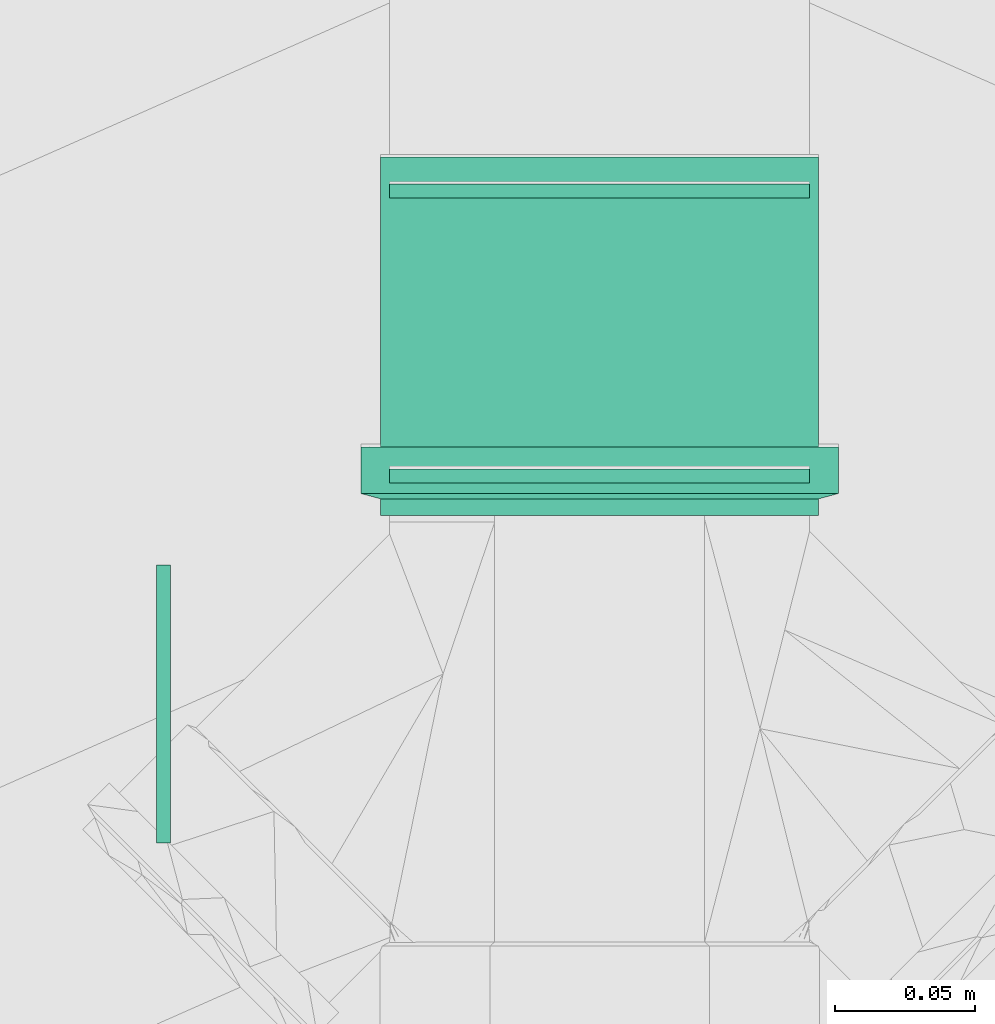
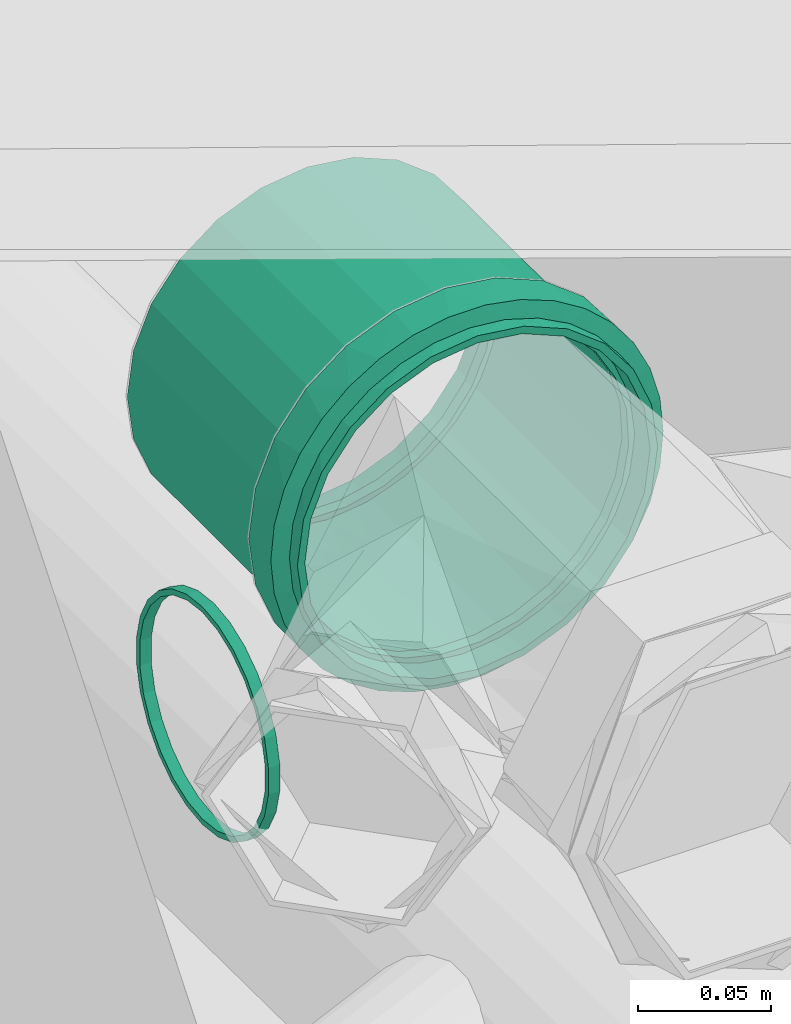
# One storey, part 126 of 166: 4 flow fittings.
"""IFC2X3 building model written with IfcOpenShell, lengths in metres."""

from ifc_helpers import new_model, entity, si_unit, converted_unit, direction, frame, frame_2d, origin, place, context, subcontext, project, spatial, hollow_circle, extrude, faceted_brep, source, transform, mapped, material, type_object, type_shapes, element, save


model = new_model("IFC2X3")

# Units and contexts
model_context = context("Model", 3, precision=1e-05, world=origin(), true_north=direction((6.123233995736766e-17, 1.0)))
body_context = subcontext(model_context, "Body", "Model", "MODEL_VIEW")
ifc_project = project(units=[si_unit("LENGTHUNIT", "METRE"), converted_unit("PLANEANGLEUNIT", "DEGREE", entity("IfcPlaneAngleMeasure", 0.017453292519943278), si_unit("PLANEANGLEUNIT", "RADIAN"), dimensions=[0, 0, 0, 0, 0, 0, 0]), si_unit("AREAUNIT", "SQUARE_METRE")], contexts=[model_context])

# Site, building, storey
site_placement = place(None, origin())
site = spatial("IfcSite", under=ifc_project, at=site_placement, Name="Default", CompositionType="ELEMENT")
building_placement = place(site_placement, origin())
building = spatial("IfcBuilding", under=site, at=building_placement, Name="CASA DE ACOLHIDA PARA IDOSOS", CompositionType="ELEMENT")
storey_placement = place(building_placement, frame((0.0, 0.0, -1.7499999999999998)))
storey = spatial("IfcBuildingStorey", under=building, at=storey_placement, Name="IMPLANTAÇÃO DRENAGEM", CompositionType="ELEMENT", Elevation=-1.7499999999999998)

# Flow fittings
ifc_material_1 = material(Name="PVC Bege Pérola")
pipe_fitting_type_1 = type_object("IfcPipeFittingType", Name="PLUV_Serie Reforcada_Luva Simples:Standard", PredefinedType="NOTDEFINED", material=ifc_material_1)
shared_shape_1 = source(origin(), body_context, "Body", "Brep", [
    faceted_brep([(0.02451000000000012, -0.039124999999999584, -0.06776648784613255), (0.02451000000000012, -0.06028085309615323, -0.06028085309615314), (0.02451000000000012, -0.04262500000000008, -0.07382866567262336), (0.02451000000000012, -0.020252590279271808, -0.0755836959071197), (0.02451000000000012, -0.05533110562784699, -0.055331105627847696), (0.02451000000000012, -0.07382866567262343, -0.04262499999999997), (0.02451000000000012, -0.06776648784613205, -0.03912500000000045), (0.02451000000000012, -0.07558369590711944, -0.02025259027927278), (0.02451000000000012, -0.08234517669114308, -0.022064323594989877), (0.02451000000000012, -0.07825, 0.0), (0.02451000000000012, -0.08525, 0.0), (0.02451000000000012, -0.07558369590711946, 0.020252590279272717), (0.02451000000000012, -0.0823451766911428, 0.022064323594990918), (0.02451000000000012, -0.06776648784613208, 0.039125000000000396), (0.02451000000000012, -0.07382866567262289, 0.04262500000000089), (0.02451000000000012, -0.05533110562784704, 0.055331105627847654), (0.02451000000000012, -0.06028085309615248, 0.0602808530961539), (0.02451000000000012, -0.03912499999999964, 0.06776648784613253), (0.02451000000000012, -0.04262499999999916, 0.07382866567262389), (0.02451000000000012, -0.020252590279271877, 0.07558369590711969), (0.02451000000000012, -0.02206432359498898, 0.08234517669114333), (0.02451000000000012, 0.0, 0.07825), (0.02451000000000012, 0.0, 0.08525), (0.02451000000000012, 0.020252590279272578, 0.0755836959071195), (0.02451000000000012, 0.022064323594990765, 0.08234517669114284), (0.02451000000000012, 0.03912500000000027, 0.06776648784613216), (0.02451000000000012, 0.042625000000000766, 0.07382866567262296), (0.02451000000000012, 0.05533110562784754, 0.055331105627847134), (0.02451000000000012, 0.0602808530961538, 0.06028085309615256), (0.02451000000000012, 0.06776648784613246, 0.03912499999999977), (0.02451000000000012, 0.07382866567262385, 0.042624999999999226), (0.02451000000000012, 0.08234517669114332, 0.02206432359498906), (0.02451000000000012, 0.07558369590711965, 0.020252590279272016), (0.02451000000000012, 0.08525, 0.0), (0.02451000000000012, 0.07825, 0.0), (0.02451000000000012, 0.08234517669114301, -0.022064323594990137), (0.02451000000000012, 0.07558369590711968, -0.020252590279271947), (0.02451000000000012, 0.07382866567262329, -0.04262500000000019), (0.02451000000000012, 0.0677664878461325, -0.03912499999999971), (0.02451000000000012, 0.060280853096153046, -0.060280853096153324), (0.02451000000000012, 0.05533110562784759, -0.055331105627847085), (0.02451000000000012, 0.042624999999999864, -0.0738286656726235), (0.02451000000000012, 0.039125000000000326, -0.06776648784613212), (0.02451000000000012, 0.02206432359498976, -0.08234517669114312), (0.02451000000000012, 0.02025259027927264, -0.07558369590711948), (0.02451000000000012, 0.0, -0.08525), (0.02451000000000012, 0.0, -0.07825), (0.02451000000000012, -0.022064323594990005, -0.08234517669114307), (0.007830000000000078, 0.08379835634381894, 0.01566518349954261), (0.007830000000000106, 0.07949286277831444, 0.03079687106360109), (0.007830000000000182, 0.05137242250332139, 0.06803261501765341), (0.007830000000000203, 0.03799626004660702, 0.07631413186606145), (0.007830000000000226, 0.00786152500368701, 0.08488674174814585), (0.00783000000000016, 0.06299903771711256, 0.057434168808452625), (0.007830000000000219, 0.023326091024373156, 0.08199668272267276), (0.007830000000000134, 0.07248014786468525, 0.044879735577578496), (0.00783000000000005, 0.08525, 0.0), (0.00783000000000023, -0.007870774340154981, 0.08488588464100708), (0.007830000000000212, -0.03800457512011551, 0.07630999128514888), (0.007830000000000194, -0.05137983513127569, 0.06802701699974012), (0.007830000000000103, -0.07949621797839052, 0.030788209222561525), (0.007830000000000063, -0.08380006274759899, 0.015656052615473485), (0.007830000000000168, -0.06300529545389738, 0.05742730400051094), (0.00783000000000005, -0.08525, 0.0), (0.007830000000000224, -0.023335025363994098, 0.08199414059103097), (0.007830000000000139, -0.07248503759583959, 0.04487183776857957), (0.007830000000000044, -0.08380006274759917, -0.015656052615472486), (0.007830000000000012, -0.07949621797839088, -0.03078820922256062), (0.00782999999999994, -0.05137983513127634, -0.06802701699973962), (0.007829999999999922, -0.038004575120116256, -0.07630999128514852), (0.007829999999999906, -0.007870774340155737, -0.084885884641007), (0.00782999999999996, -0.063005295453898, -0.05742730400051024), (0.007829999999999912, -0.023335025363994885, -0.08199414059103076), (0.007829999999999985, -0.07248503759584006, -0.04487183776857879), (0.007829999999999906, 0.007861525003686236, -0.0848867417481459), (0.007829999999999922, 0.037996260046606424, -0.07631413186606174), (0.007829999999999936, 0.05137242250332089, -0.06803261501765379), (0.00783, 0.07949286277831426, -0.030796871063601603), (0.007830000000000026, 0.08379835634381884, -0.015665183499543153), (0.007829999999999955, 0.06299903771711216, -0.057434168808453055), (0.007829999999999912, 0.023326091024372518, -0.08199668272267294), (0.007829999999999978, 0.07248014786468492, -0.044879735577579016), (0.1280100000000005, -0.0374999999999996, -0.06495190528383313), (0.1280100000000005, -0.055331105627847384, -0.05533110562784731), (0.1280100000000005, -0.03912500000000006, -0.06776648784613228), (0.1280100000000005, -0.01941142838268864, -0.07244443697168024), (0.1280100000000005, -0.05303300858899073, -0.053033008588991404), (0.1280100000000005, -0.06776648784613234, -0.039124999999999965), (0.1280100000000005, -0.06495190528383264, -0.03750000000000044), (0.1280100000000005, -0.07244443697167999, -0.01941142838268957), (0.1280100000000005, -0.07558369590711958, -0.020252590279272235), (0.1280100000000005, -0.07500000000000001, 0.0), (0.1280100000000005, -0.07825, 0.0), (0.1280100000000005, -0.07244443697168, 0.019411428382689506), (0.1280100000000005, -0.07558369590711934, 0.020252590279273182), (0.1280100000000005, -0.06495190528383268, 0.03750000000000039), (0.1280100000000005, -0.06776648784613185, 0.03912500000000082), (0.1280100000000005, -0.05303300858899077, 0.05303300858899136), (0.1280100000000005, -0.0553311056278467, 0.055331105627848), (0.1280100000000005, -0.03749999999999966, 0.0649519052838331), (0.1280100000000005, -0.039124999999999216, 0.06776648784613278), (0.1280100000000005, -0.0194114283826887, 0.07244443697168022), (0.1280100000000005, -0.020252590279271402, 0.07558369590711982), (0.1280100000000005, 0.0, 0.07500000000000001), (0.1280100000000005, 0.0, 0.07825), (0.1280100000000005, 0.019411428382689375, 0.07244443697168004), (0.1280100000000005, 0.020252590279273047, 0.07558369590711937), (0.1280100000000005, 0.03750000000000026, 0.06495190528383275), (0.1280100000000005, 0.039125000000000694, 0.06776648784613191), (0.1280100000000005, 0.05303300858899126, 0.05303300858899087), (0.1280100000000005, 0.055331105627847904, 0.05533110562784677), (0.1280100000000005, 0.06495190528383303, 0.037499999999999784), (0.1280100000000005, 0.06776648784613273, 0.039124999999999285), (0.1280100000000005, 0.0755836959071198, 0.02025259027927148), (0.1280100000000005, 0.07244443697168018, 0.019411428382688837), (0.1280100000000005, 0.07825, 0.0), (0.1280100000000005, 0.07500000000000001, 0.0), (0.1280100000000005, 0.07558369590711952, -0.020252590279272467), (0.1280100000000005, 0.0724444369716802, -0.01941142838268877), (0.1280100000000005, 0.06776648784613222, -0.039125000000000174), (0.1280100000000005, 0.06495190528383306, -0.03749999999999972), (0.1280100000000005, 0.05533110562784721, -0.05533110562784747), (0.1280100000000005, 0.053033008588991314, -0.05303300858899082), (0.1280100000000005, 0.03912499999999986, -0.0677664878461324), (0.1280100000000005, 0.03750000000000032, -0.06495190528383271), (0.1280100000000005, 0.02025259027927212, -0.07558369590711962), (0.1280100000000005, 0.019411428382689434, -0.07244443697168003), (0.1280100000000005, 0.0, -0.07825), (0.1280100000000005, 0.0, -0.07500000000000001), (0.1280100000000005, -0.020252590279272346, -0.07558369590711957), (0.0, -0.03912500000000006, -0.06776648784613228), (0.0, -0.055331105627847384, -0.05533110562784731), (0.0, -0.0374999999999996, -0.06495190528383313), (0.0, -0.01941142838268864, -0.07244443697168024), (0.0, -0.020252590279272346, -0.07558369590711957), (0.0, -0.05303300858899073, -0.053033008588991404), (0.0, -0.06776648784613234, -0.039124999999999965), (0.0, -0.06495190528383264, -0.03750000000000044), (0.0, -0.07244443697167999, -0.01941142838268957), (0.0, -0.07558369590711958, -0.020252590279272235), (0.0, -0.07500000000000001, 0.0), (0.0, -0.07825, 0.0), (0.0, -0.07244443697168, 0.019411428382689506), (0.0, -0.07558369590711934, 0.020252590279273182), (0.0, -0.06495190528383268, 0.03750000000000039), (0.0, -0.06776648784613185, 0.03912500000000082), (0.0, -0.05303300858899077, 0.05303300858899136), (0.0, -0.0553311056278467, 0.055331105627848), (0.0, -0.03749999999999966, 0.0649519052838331), (0.0, -0.039124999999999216, 0.06776648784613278), (0.0, -0.0194114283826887, 0.07244443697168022), (0.0, -0.020252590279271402, 0.07558369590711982), (0.0, 0.0, 0.07500000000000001), (0.0, 0.0, 0.07825), (0.0, 0.019411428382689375, 0.07244443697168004), (0.0, 0.020252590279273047, 0.07558369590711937), (0.0, 0.03750000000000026, 0.06495190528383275), (0.0, 0.039125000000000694, 0.06776648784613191), (0.0, 0.05303300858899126, 0.05303300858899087), (0.0, 0.055331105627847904, 0.05533110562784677), (0.0, 0.06495190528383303, 0.037499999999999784), (0.0, 0.06776648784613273, 0.039124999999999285), (0.0, 0.0755836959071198, 0.02025259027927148), (0.0, 0.07244443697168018, 0.019411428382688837), (0.0, 0.07825, 0.0), (0.0, 0.07500000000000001, 0.0), (0.0, 0.07558369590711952, -0.020252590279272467), (0.0, 0.0724444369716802, -0.01941142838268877), (0.0, 0.06776648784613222, -0.039125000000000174), (0.0, 0.06495190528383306, -0.03749999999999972), (0.0, 0.05533110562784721, -0.05533110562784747), (0.0, 0.053033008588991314, -0.05303300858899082), (0.0, 0.03912499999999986, -0.0677664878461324), (0.0, 0.03750000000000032, -0.06495190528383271), (0.0, 0.02025259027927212, -0.07558369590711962), (0.0, 0.019411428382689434, -0.07244443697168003), (0.0, 0.0, -0.07825), (0.0, 0.0, -0.07500000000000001), (0.0059500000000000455, 0.07825, 0.0), (0.005950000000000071, 0.07674636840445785, 0.015266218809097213), (0.005950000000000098, 0.0722932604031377, 0.02994573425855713), (0.005950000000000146, 0.05532994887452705, 0.05533226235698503), (0.005950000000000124, 0.06506181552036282, 0.043474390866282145), (0.005950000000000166, 0.04347167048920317, 0.06506363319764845), (0.005950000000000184, 0.029942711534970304, 0.07229451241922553), (0.005950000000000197, 0.015263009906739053, 0.07674700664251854), (0.005950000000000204, -3.271758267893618e-06, 0.07824999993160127), (0.005950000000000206, -0.015269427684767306, 0.07674573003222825), (0.005950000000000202, -0.029948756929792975, 0.07229200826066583), (0.005950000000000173, -0.055334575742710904, 0.05532763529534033), (0.00595000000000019, -0.04347711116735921, 0.0650599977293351), (0.0059500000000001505, -0.06506545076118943, 0.043468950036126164), (0.005950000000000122, -0.07229576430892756, 0.02993968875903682), (0.0059500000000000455, -0.07825, 0.0), (0.005950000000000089, -0.07674764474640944, 0.015259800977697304), (0.0059499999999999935, -0.07674764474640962, -0.015259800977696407), (0.005949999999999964, -0.0722957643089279, -0.02993968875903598), (0.005949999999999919, -0.05533457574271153, -0.05532763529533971), (0.005949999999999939, -0.06506545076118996, -0.04346895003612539), (0.005949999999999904, -0.04347711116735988, -0.06505999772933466), (0.005949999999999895, -0.029948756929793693, -0.07229200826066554), (0.00594999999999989, -0.015269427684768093, -0.0767457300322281), (0.005949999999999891, -3.2717582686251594e-06, -0.07824999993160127), (0.005949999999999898, 0.015263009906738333, -0.07674700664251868), (0.00594999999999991, 0.029942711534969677, -0.0722945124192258), (0.005949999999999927, 0.04347167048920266, -0.0650636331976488), (0.00594999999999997, 0.06506181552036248, -0.043474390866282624), (0.005949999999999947, 0.055329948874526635, -0.055332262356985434), (0.005949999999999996, 0.0722932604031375, -0.02994573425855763), (0.00595000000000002, 0.07674636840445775, -0.015266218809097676), (0.06700000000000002, 0.07500000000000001, 0.0), (0.067, -0.07500000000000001, 0.0)], [[[0, 1, 2]], [[3, 0, 2]], [[4, 1, 0]], [[1, 4, 5]], [[6, 5, 4]], [[7, 5, 6]], [[5, 7, 8]], [[7, 9, 8]], [[10, 8, 9]], [[10, 9, 11]], [[11, 12, 10]], [[13, 12, 11]], [[12, 13, 14]], [[15, 14, 13]], [[16, 14, 15]], [[16, 15, 17]], [[17, 18, 16]], [[19, 18, 17]], [[18, 19, 20]], [[21, 20, 19]], [[22, 20, 21]], [[23, 22, 21]], [[24, 22, 23]], [[25, 24, 23]], [[24, 25, 26]], [[25, 27, 26]], [[28, 26, 27]], [[27, 29, 28]], [[28, 29, 30]], [[31, 30, 29]], [[29, 32, 31]], [[31, 32, 33]], [[32, 34, 33]], [[33, 34, 35]], [[34, 36, 35]], [[37, 35, 36]], [[36, 38, 37]], [[39, 37, 38]], [[40, 39, 38]], [[40, 41, 39]], [[42, 41, 40]], [[43, 41, 42]], [[42, 44, 43]], [[43, 44, 45]], [[44, 46, 45]], [[46, 3, 47]], [[45, 46, 47]], [[2, 47, 3]], [[33, 48, 31]], [[31, 49, 30]], [[26, 28, 50]], [[51, 24, 26]], [[22, 24, 52]], [[53, 28, 30]], [[24, 54, 52]], [[30, 49, 55]], [[31, 48, 49]], [[33, 56, 48]], [[26, 50, 51]], [[50, 28, 53]], [[30, 55, 53]], [[54, 24, 51]], [[22, 57, 20]], [[18, 20, 58]], [[59, 16, 18]], [[12, 14, 60]], [[61, 10, 12]], [[62, 14, 16]], [[61, 63, 10]], [[18, 58, 59]], [[20, 64, 58]], [[20, 57, 64]], [[14, 65, 60]], [[65, 14, 62]], [[16, 59, 62]], [[61, 12, 60]], [[52, 57, 22]], [[10, 66, 8]], [[8, 67, 5]], [[2, 1, 68]], [[69, 47, 2]], [[45, 47, 70]], [[71, 1, 5]], [[47, 72, 70]], [[5, 67, 73]], [[8, 66, 67]], [[10, 63, 66]], [[2, 68, 69]], [[68, 1, 71]], [[5, 73, 71]], [[72, 47, 69]], [[45, 74, 43]], [[41, 43, 75]], [[76, 39, 41]], [[77, 35, 37]], [[33, 35, 78]], [[78, 56, 33]], [[79, 37, 39]], [[35, 77, 78]], [[41, 75, 76]], [[43, 80, 75]], [[43, 74, 80]], [[81, 37, 79]], [[39, 76, 79]], [[37, 81, 77]], [[70, 74, 45]], [[82, 83, 84]], [[85, 82, 84]], [[86, 83, 82]], [[83, 86, 87]], [[88, 87, 86]], [[89, 87, 88]], [[87, 89, 90]], [[89, 91, 90]], [[92, 90, 91]], [[92, 91, 93]], [[93, 94, 92]], [[95, 94, 93]], [[94, 95, 96]], [[97, 96, 95]], [[98, 96, 97]], [[98, 97, 99]], [[99, 100, 98]], [[101, 100, 99]], [[100, 101, 102]], [[103, 102, 101]], [[104, 102, 103]], [[105, 104, 103]], [[106, 104, 105]], [[107, 106, 105]], [[106, 107, 108]], [[108, 107, 109]], [[110, 108, 109]], [[109, 111, 110]], [[110, 111, 112]], [[113, 112, 111]], [[111, 114, 113]], [[113, 114, 115]], [[114, 116, 115]], [[115, 116, 117]], [[116, 118, 117]], [[119, 117, 118]], [[118, 120, 119]], [[121, 119, 120]], [[122, 121, 120]], [[122, 123, 121]], [[123, 122, 124]], [[125, 123, 124]], [[124, 126, 125]], [[125, 126, 127]], [[126, 128, 127]], [[128, 85, 129]], [[127, 128, 129]], [[84, 129, 85]], [[130, 131, 132]], [[130, 132, 133]], [[133, 134, 130]], [[132, 131, 135]], [[136, 135, 131]], [[135, 136, 137]], [[137, 136, 138]], [[139, 138, 136]], [[139, 140, 138]], [[140, 139, 141]], [[142, 140, 141]], [[141, 143, 142]], [[142, 143, 144]], [[145, 144, 143]], [[144, 145, 146]], [[146, 145, 147]], [[148, 146, 147]], [[147, 149, 148]], [[148, 149, 150]], [[151, 150, 149]], [[150, 151, 152]], [[152, 151, 153]], [[152, 153, 154]], [[154, 153, 155]], [[154, 155, 156]], [[157, 156, 155]], [[158, 156, 157]], [[158, 157, 159]], [[159, 160, 158]], [[161, 160, 159]], [[160, 161, 162]], [[162, 163, 160]], [[164, 163, 162]], [[164, 165, 163]], [[166, 165, 164]], [[166, 167, 165]], [[167, 166, 168]], [[168, 169, 167]], [[169, 168, 170]], [[169, 170, 171]], [[170, 172, 171]], [[173, 171, 172]], [[173, 172, 174]], [[174, 175, 173]], [[176, 175, 174]], [[134, 177, 176]], [[176, 177, 175]], [[134, 133, 177]], [[178, 164, 179]], [[179, 162, 180]], [[181, 182, 159]], [[159, 183, 181]], [[161, 182, 180]], [[183, 157, 184]], [[182, 161, 159]], [[180, 162, 161]], [[179, 164, 162]], [[155, 153, 185]], [[186, 185, 153]], [[155, 184, 157]], [[183, 159, 157]], [[184, 155, 185]], [[187, 153, 151]], [[187, 151, 188]], [[189, 190, 147]], [[147, 191, 189]], [[149, 190, 188]], [[191, 145, 192]], [[191, 147, 145]], [[190, 149, 147]], [[188, 151, 149]], [[141, 193, 194]], [[194, 143, 141]], [[192, 145, 143]], [[143, 194, 192]], [[186, 153, 187]], [[193, 141, 195]], [[195, 139, 196]], [[197, 198, 131]], [[131, 199, 197]], [[136, 198, 196]], [[199, 130, 200]], [[198, 136, 131]], [[196, 139, 136]], [[195, 141, 139]], [[176, 201, 134]], [[134, 200, 130]], [[176, 202, 201]], [[199, 131, 130]], [[200, 134, 201]], [[203, 174, 204]], [[204, 172, 205]], [[206, 207, 170]], [[208, 206, 168]], [[170, 207, 205]], [[209, 208, 166]], [[205, 172, 170]], [[204, 174, 172]], [[203, 176, 174]], [[209, 166, 164]], [[166, 208, 168]], [[206, 170, 168]], [[178, 209, 164]], [[202, 176, 203]], [[206, 208, 81]], [[78, 209, 178]], [[77, 208, 209]], [[75, 204, 205]], [[205, 207, 76]], [[206, 79, 207]], [[204, 80, 203]], [[77, 209, 78]], [[78, 178, 56]], [[81, 208, 77]], [[203, 80, 74]], [[207, 79, 76]], [[205, 76, 75]], [[204, 75, 80]], [[79, 206, 81]], [[74, 202, 203]], [[200, 201, 72]], [[202, 70, 201]], [[200, 69, 199]], [[67, 195, 196]], [[196, 198, 73]], [[71, 198, 197]], [[199, 68, 197]], [[193, 195, 66]], [[199, 69, 68]], [[201, 70, 72]], [[200, 72, 69]], [[193, 66, 63]], [[198, 71, 73]], [[196, 73, 67]], [[195, 67, 66]], [[71, 197, 68]], [[74, 70, 202]], [[191, 192, 65]], [[61, 194, 193]], [[60, 192, 194]], [[58, 188, 190]], [[190, 189, 59]], [[191, 62, 189]], [[188, 64, 187]], [[60, 194, 61]], [[61, 193, 63]], [[65, 192, 60]], [[187, 64, 57]], [[189, 62, 59]], [[190, 59, 58]], [[188, 58, 64]], [[62, 191, 65]], [[57, 186, 187]], [[184, 185, 54]], [[186, 52, 185]], [[184, 51, 183]], [[49, 179, 180]], [[180, 182, 55]], [[53, 182, 181]], [[183, 50, 181]], [[178, 179, 48]], [[183, 51, 50]], [[185, 52, 54]], [[184, 54, 51]], [[178, 48, 56]], [[182, 53, 55]], [[180, 55, 49]], [[179, 49, 48]], [[53, 181, 50]], [[57, 52, 186]], [[113, 115, 34, 32]], [[113, 32, 29, 112]], [[108, 110, 27, 25]], [[27, 110, 112, 29]], [[106, 108, 25, 23]], [[23, 21, 104, 106]], [[100, 102, 19, 17]], [[100, 17, 15, 98]], [[94, 96, 13, 11]], [[13, 96, 98, 15]], [[92, 94, 11, 9]], [[104, 21, 19, 102]], [[90, 92, 9, 7]], [[90, 7, 6, 87]], [[3, 129, 84, 0]], [[4, 0, 84, 83]], [[83, 87, 6, 4]], [[3, 46, 127, 129]], [[123, 125, 44, 42]], [[123, 42, 40, 121]], [[117, 119, 38, 36]], [[38, 119, 121, 40]], [[115, 117, 36, 34]], [[127, 46, 44, 125]], [[210, 116, 114, 163, 165]], [[109, 107, 156, 158]], [[158, 160, 111, 109]], [[160, 163, 114, 111]], [[154, 156, 107, 105]], [[105, 103, 152, 154]], [[150, 152, 103, 101]], [[99, 148, 150, 101]], [[95, 93, 142, 144]], [[144, 146, 97, 95]], [[146, 148, 99, 97]], [[211, 140, 142, 93, 91]], [[91, 89, 138, 140, 211]], [[86, 82, 132, 135]], [[138, 89, 88, 137]], [[86, 135, 137, 88]], [[133, 132, 82, 85]], [[85, 128, 177, 133]], [[175, 177, 128, 126]], [[124, 173, 175, 126]], [[120, 118, 167, 169]], [[169, 171, 122, 120]], [[171, 173, 124, 122]], [[210, 165, 167, 118, 116]]]),
])
type_shapes(pipe_fitting_type_1, [shared_shape_1])
flow_fitting_1_placement = place(storey_placement, frame((22.96863342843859, 33.912014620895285, -1.0), z_axis=(0.0, 0.0, -1.0), x_axis=(0.0, 1.0, 0.0)))
element("IfcFlowFitting", 1, at=flow_fitting_1_placement, inside=storey, type_object=pipe_fitting_type_1, material=ifc_material_1, Name="PLUV_Serie Reforcada_Luva Simples:Standard", ObjectType="PLUV_Serie Reforcada_Luva Simples:Standard", context=body_context, shape_type="MappedRepresentation", body=[
    mapped(shared_shape_1, transform((0.0, 0.0, 0.0), scale=1.0)),
])
ifc_material_2 = material(Name="Borracha")
pipe_fitting_type_2 = type_object("IfcPipeFittingType", Name="AN_PLUV_Anel de vedação para Conexão Série R:AN_PLUV_Anel de vedação para Conexão Série R", PredefinedType="NOTDEFINED", material=ifc_material_2)
shared_shape_2 = source(origin(), body_context, "Body", "SweptSolid", [
    extrude(hollow_circle(Radius=0.05, WallThickness=0.0024999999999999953, at=frame_2d((2.979563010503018e-18, -2.251062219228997e-16), x_axis=(1.0, 0.0))), frame((0.0, 0.0, -0.004999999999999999)), (0.0, 0.0, 1.0), 0.004999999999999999),
])
type_shapes(pipe_fitting_type_2, [shared_shape_2])
flow_fitting_2_placement = place(storey_placement, frame((22.815287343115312, 33.84469853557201, -1.0), z_axis=(1.0, 0.0, 0.0), x_axis=(0.0, 0.0, 1.0)))
element("IfcFlowFitting", 2, at=flow_fitting_2_placement, inside=storey, type_object=pipe_fitting_type_2, material=ifc_material_2, Name="AN_PLUV_Anel de vedação para Conexão Série R:AN_PLUV_Anel de vedação para Conexão Série R", ObjectType="AN_PLUV_Anel de vedação para Conexão Série R:AN_PLUV_Anel de vedação para Conexão Série R", context=body_context, shape_type="MappedRepresentation", body=[
    mapped(shared_shape_2, transform((0.0, 0.0, 0.0), scale=1.0)),
])
pipe_fitting_type_3 = type_object("IfcPipeFittingType", Name="AN_PLUV_Anel de vedação para Conexão Série R:AN_PLUV_Anel de vedação para Conexão Série R", PredefinedType="NOTDEFINED", material=ifc_material_2)
shared_shape_3 = source(origin(), body_context, "Body", "SweptSolid", [
    extrude(hollow_circle(Radius=0.07500000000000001, WallThickness=0.0025000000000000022, at=frame_2d((2.979563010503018e-18, -3.3765933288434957e-16), x_axis=(1.0, 0.0))), frame((0.0, 0.0, -0.004999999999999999)), (0.0, 0.0, 1.0), 0.004999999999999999),
])
type_shapes(pipe_fitting_type_3, [shared_shape_3])
for number, where, z_axis, x_axis in (
    (3, (22.96863342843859, 34.02536462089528, -1.0), (0.0, -1.0, 0.0), (0.0, 0.0, 1.0)),
    (4, (22.96863342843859, 33.92861462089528, -1.0), (0.0, 1.0, 0.0), (0.0, 0.0, 1.0)),
):
    element("IfcFlowFitting", number, at=place(storey_placement, frame(where, z_axis=z_axis, x_axis=x_axis)), inside=storey, type_object=pipe_fitting_type_3, material=ifc_material_2, Name="AN_PLUV_Anel de vedação para Conexão Série R:AN_PLUV_Anel de vedação para Conexão Série R", ObjectType="AN_PLUV_Anel de vedação para Conexão Série R:AN_PLUV_Anel de vedação para Conexão Série R", context=body_context, shape_type="MappedRepresentation", body=[
        mapped(shared_shape_3, transform((0.0, 0.0, 0.0), scale=1.0)),
    ])

save(model, "model.ifc")
